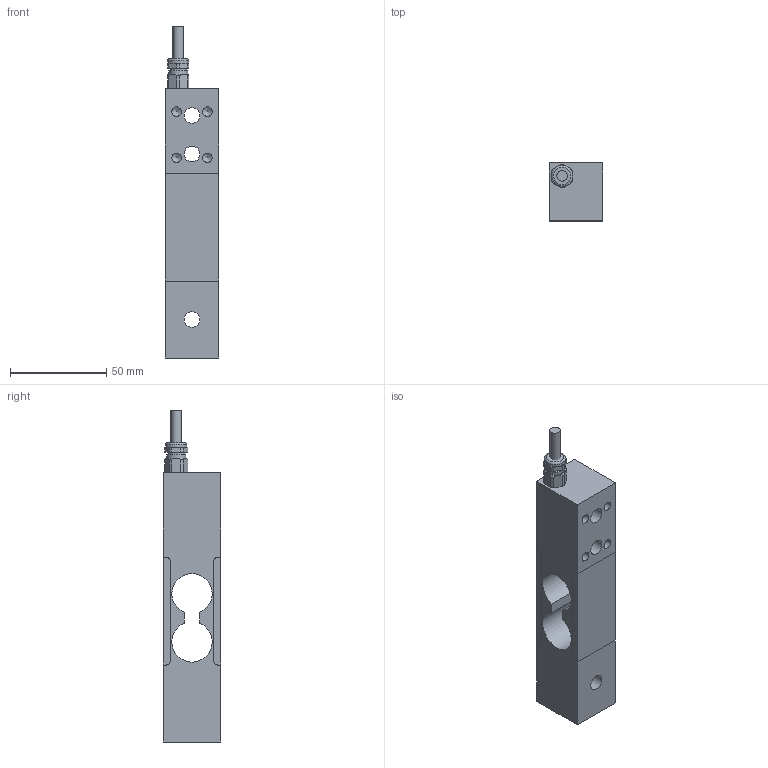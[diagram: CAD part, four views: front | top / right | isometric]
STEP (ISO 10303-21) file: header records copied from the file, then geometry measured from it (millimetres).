
FILE_DESCRIPTION(/* description */ ('Alibre Inc.'),/* implementation_level */ '2;1');
FILE_NAME(/* name */ 'export0',/* time_stamp */ '2015-08-06T11:22:06+02:00',/* author */ (''),/* organization */ (''),/* preprocessor_version */ 'ST-DEVELOPER v14',/* originating_system */ 'Alibre',/* authorisation */ '');
FILE_SCHEMA (('CONFIG_CONTROL_DESIGN'));
Length unit declared in the file: centimetre
Products named in the file (4): ID_1; _SKINDICHT MINI M 8x1      Art. Nr. 52001880(F=3.5); ID_2
Bounding box: 28 x 30 x 172.5 mm (x, y, z)
Volume: 90976.1 mm3; surface area: 26408.9 mm2
Topology: 3 solids, 5 shells, 156 faces, 395 edges, 255 vertices
Faces by surface type: plane 71, cylinder 57, cone 25, torus 3
Full cylindrical faces by diameter (mm): 3 x1, 3.5 x1, 4.8 x1, 4.917 x8, 5.5 x1, 6.773 x1, 6.917 x1, 8 x1, 8.2 x3, 8.773 x1, 10 x1, 11 x1
Entity records: 4734 total; most frequent: CARTESIAN_POINT 890, ORIENTED_EDGE 684, DIRECTION 671, EDGE_CURVE 342, AXIS2_PLACEMENT_3D 285, VERTEX_POINT 248, FACE_BOUND 220, EDGE_LOOP 211
